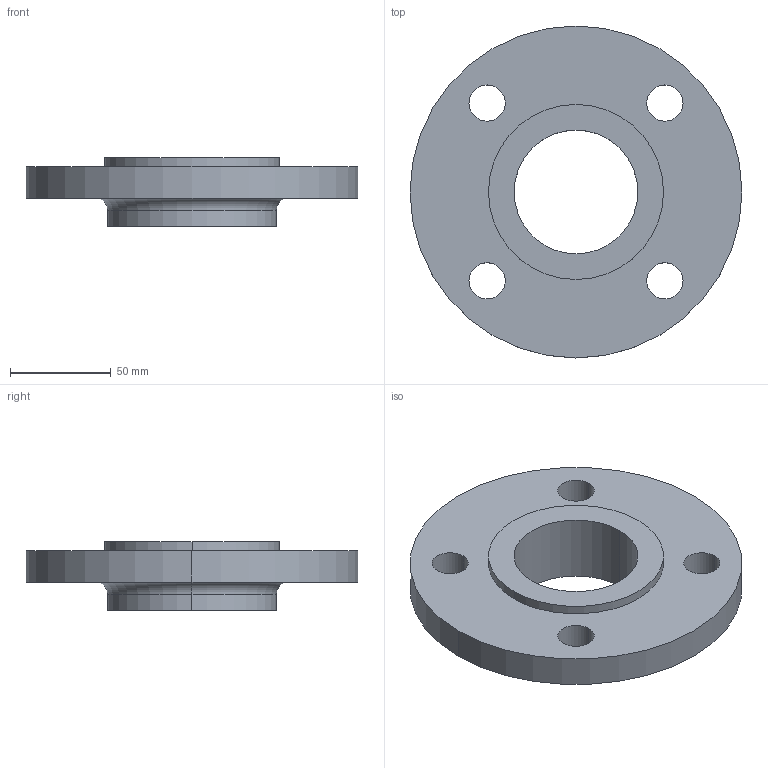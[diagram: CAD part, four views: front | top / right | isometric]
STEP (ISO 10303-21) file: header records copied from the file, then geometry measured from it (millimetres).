
FILE_DESCRIPTION (( 'STEP AP214' ), '1' );
FILE_NAME ('PN40 DN50 Type 12 - Type E Face.STEP', '2018-12-30T04:33:21', ( '' ), ( '' ), 'SwSTEP 2.0', 'SolidWorks 2019', '' );
FILE_SCHEMA (( 'AUTOMOTIVE_DESIGN' ));
Length unit declared in the file: millimetre
Products named in the file (1): PN40 DN50 Type 12 - Type E Face
Bounding box: 165 x 165 x 34 mm (x, y, z)
Volume: 321091.3 mm3; surface area: 57158.6 mm2
Topology: 1 solids, 1 shells, 22 faces, 52 edges, 34 vertices
Faces by surface type: cylinder 16, plane 4, torus 2
Entity records: 710 total; most frequent: DIRECTION 134, CARTESIAN_POINT 109, ORIENTED_EDGE 104, AXIS2_PLACEMENT_3D 59, EDGE_CURVE 52, CIRCLE 36, VERTEX_POINT 34, EDGE_LOOP 34
